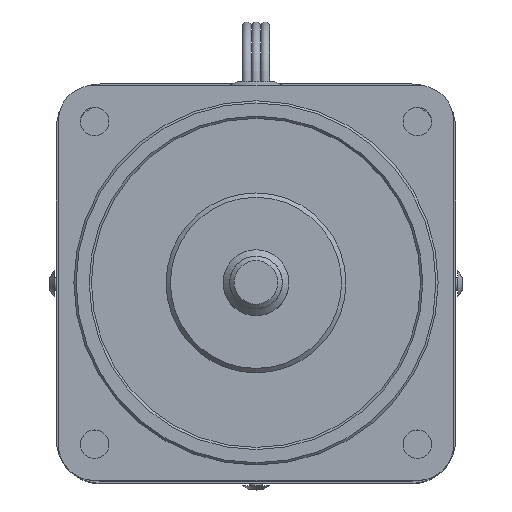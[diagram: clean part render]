
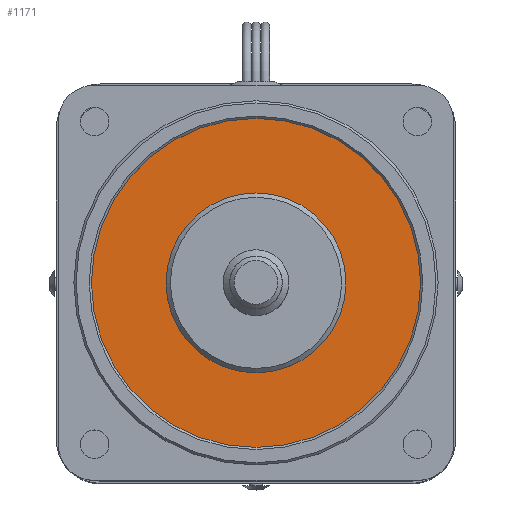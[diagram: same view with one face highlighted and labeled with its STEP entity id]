
A CAD part, top view. The second image highlights one B-rep face of the part: STEP entity #1171.
In plain terms, the highlighted planar face has unit normal (0, 0, 1).
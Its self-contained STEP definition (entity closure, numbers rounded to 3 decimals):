
#120 = ORIENTED_EDGE ( 'NONE', *, *, #2955, .T. ) ;
#121 = ORIENTED_EDGE ( 'NONE', *, *, #2950, .F. ) ;
#1171 = ADVANCED_FACE ( 'NONE', ( #9395, #9392 ), #2595, .T. ) ;
#1471 = CIRCLE ( 'NONE', #4007, 20.5 ) ;
#1479 = CIRCLE ( 'NONE', #4012, 37.5 ) ;
#2264 = CARTESIAN_POINT ( 'NONE',  ( 0., 0., -2. ) ) ;
#2265 = DIRECTION ( 'NONE',  ( 0., 0., 1. ) ) ;
#2266 = DIRECTION ( 'NONE',  ( 1., 0., 0. ) ) ;
#2281 = CARTESIAN_POINT ( 'NONE',  ( 0., 0., -2. ) ) ;
#2282 = DIRECTION ( 'NONE',  ( 0., 0., 1. ) ) ;
#2283 = DIRECTION ( 'NONE',  ( 1., 0., 0. ) ) ;
#2595 = PLANE ( 'NONE',  #3231 ) ;
#2596 = CARTESIAN_POINT ( 'NONE',  ( 0., 0., -2. ) ) ;
#2601 = DIRECTION ( 'NONE',  ( 0., 0., 1. ) ) ;
#2602 = DIRECTION ( 'NONE',  ( 1., 0., 0. ) ) ;
#2950 = EDGE_CURVE ( 'NONE', #7090, #7090, #1471, .T. ) ;
#2955 = EDGE_CURVE ( 'NONE', #7095, #7095, #1479, .T. ) ;
#3231 = AXIS2_PLACEMENT_3D ( 'NONE', #2596, #2601, #2602 ) ;
#4007 = AXIS2_PLACEMENT_3D ( 'NONE', #2264, #2265, #2266 ) ;
#4012 = AXIS2_PLACEMENT_3D ( 'NONE', #2281, #2282, #2283 ) ;
#5997 = EDGE_LOOP ( 'NONE', ( #120 ) ) ;
#5999 = EDGE_LOOP ( 'NONE', ( #121 ) ) ;
#6909 = CARTESIAN_POINT ( 'NONE',  ( 20.5, 0., -2. ) ) ;
#6914 = CARTESIAN_POINT ( 'NONE',  ( 37.5, 0., -2. ) ) ;
#7090 = VERTEX_POINT ( 'NONE', #6909 ) ;
#7095 = VERTEX_POINT ( 'NONE', #6914 ) ;
#9392 = FACE_BOUND ( 'NONE', #5999, .T. ) ;
#9395 = FACE_OUTER_BOUND ( 'NONE', #5997, .T. ) ;
